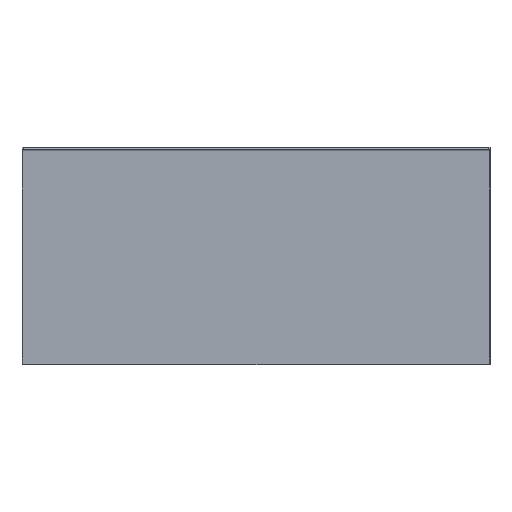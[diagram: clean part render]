
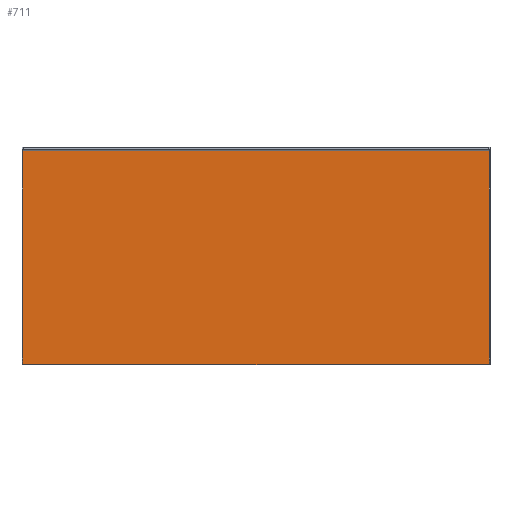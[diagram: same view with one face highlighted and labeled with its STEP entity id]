
A CAD part, front view. The second image highlights one B-rep face of the part: STEP entity #711.
In plain terms, the highlighted planar face has unit normal (0, -1, 0).
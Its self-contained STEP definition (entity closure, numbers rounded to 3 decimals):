
#6 = CARTESIAN_POINT ( 'NONE',  ( 747., -20., 347. ) ) ;
#15 = VECTOR ( 'NONE', #1188, 1000. ) ;
#46 = EDGE_CURVE ( 'NONE', #889, #958, #679, .T. ) ;
#89 = VERTEX_POINT ( 'NONE', #665 ) ;
#131 = CARTESIAN_POINT ( 'NONE',  ( 747., -20., -347. ) ) ;
#152 = VERTEX_POINT ( 'NONE', #1631 ) ;
#220 = DIRECTION ( 'NONE',  ( -1., 0., 0. ) ) ;
#231 = ORIENTED_EDGE ( 'NONE', *, *, #46, .F. ) ;
#299 = CARTESIAN_POINT ( 'NONE',  ( 747., -20., 347. ) ) ;
#301 = ORIENTED_EDGE ( 'NONE', *, *, #471, .F. ) ;
#407 = AXIS2_PLACEMENT_3D ( 'NONE', #514, #1279, #1431 ) ;
#428 = ORIENTED_EDGE ( 'NONE', *, *, #720, .F. ) ;
#471 = EDGE_CURVE ( 'NONE', #958, #89, #998, .T. ) ;
#506 = FACE_OUTER_BOUND ( 'NONE', #1330, .T. ) ;
#514 = CARTESIAN_POINT ( 'NONE',  ( 0., -20., 0. ) ) ;
#532 = LINE ( 'NONE', #1602, #15 ) ;
#557 = DIRECTION ( 'NONE',  ( 0., 0., -1. ) ) ;
#630 = VECTOR ( 'NONE', #220, 1000. ) ;
#640 = PLANE ( 'NONE',  #407 ) ;
#665 = CARTESIAN_POINT ( 'NONE',  ( -747., -20., -347. ) ) ;
#679 = LINE ( 'NONE', #299, #1286 ) ;
#711 = ADVANCED_FACE ( 'NONE', ( #506 ), #640, .T. ) ;
#720 = EDGE_CURVE ( 'NONE', #152, #889, #1422, .T. ) ;
#882 = CARTESIAN_POINT ( 'NONE',  ( -747., -20., 347. ) ) ;
#889 = VERTEX_POINT ( 'NONE', #6 ) ;
#958 = VERTEX_POINT ( 'NONE', #131 ) ;
#998 = LINE ( 'NONE', #1537, #630 ) ;
#1061 = VECTOR ( 'NONE', #1302, 1000. ) ;
#1188 = DIRECTION ( 'NONE',  ( 0., 0., 1. ) ) ;
#1264 = ORIENTED_EDGE ( 'NONE', *, *, #1346, .F. ) ;
#1279 = DIRECTION ( 'NONE',  ( 0., -1., 0. ) ) ;
#1286 = VECTOR ( 'NONE', #557, 1000. ) ;
#1302 = DIRECTION ( 'NONE',  ( 1., 0., 0. ) ) ;
#1330 = EDGE_LOOP ( 'NONE', ( #231, #428, #1264, #301 ) ) ;
#1346 = EDGE_CURVE ( 'NONE', #89, #152, #532, .T. ) ;
#1422 = LINE ( 'NONE', #882, #1061 ) ;
#1431 = DIRECTION ( 'NONE',  ( 0., 0., -1. ) ) ;
#1537 = CARTESIAN_POINT ( 'NONE',  ( -747., -20., -347. ) ) ;
#1602 = CARTESIAN_POINT ( 'NONE',  ( -747., -20., 347. ) ) ;
#1631 = CARTESIAN_POINT ( 'NONE',  ( -747., -20., 347. ) ) ;
